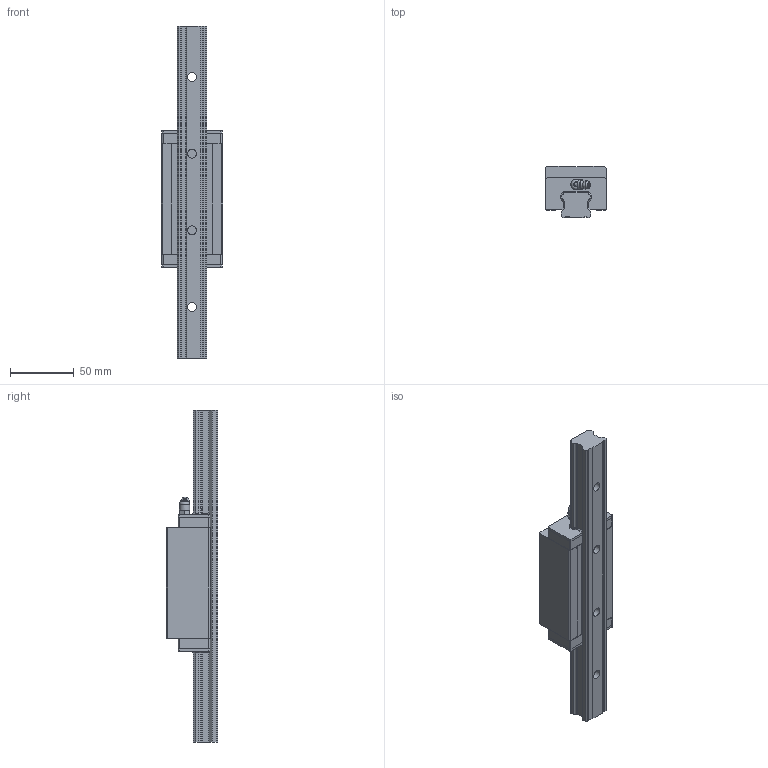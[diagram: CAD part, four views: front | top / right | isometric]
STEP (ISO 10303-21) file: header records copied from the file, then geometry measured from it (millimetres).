
FILE_DESCRIPTION((''),'2;1');
FILE_NAME('C:\Documents and Settings\土屋\My Documents\土屋移動用フォルダ\製品 (図面)\カタログ用3D\リニアガイド\EGH-L\EGH25L.stp','2015-12-15T17:45:33',('y'),(''),'Autodesk Inventor 11','Autodesk Inventor 11','');
FILE_SCHEMA(('AUTOMOTIVE_DESIGN { 1 0 10303 214 1 1 1 1 }'));
Length unit declared in the file: millimetre
Products named in the file (3): EGH25L; EGH25Lレール; EGH25Lキャリッジ
Assembly tree (2 placements, depth 2):
  EGH25L
    EGH25Lレール
    EGH25Lキャリッジ
Bounding box: 48 x 40 x 260 mm (x, y, z)
Volume: 227551.7 mm3; surface area: 57168.8 mm2
Topology: 7 solids, 7 shells, 308 faces, 815 edges, 532 vertices
Faces by surface type: plane 202, cylinder 90, cone 12, bspline 2, torus 1, sphere 1
Full cylindrical faces by diameter (mm): 5 x4, 6 x9, 7 x4, 7.75 x1, 8 x1, 11 x4
Entity records: 9475 total; most frequent: CARTESIAN_POINT 1779, DIRECTION 1582, ORIENTED_EDGE 1540, EDGE_CURVE 770, VECTOR 562, LINE 562, VERTEX_POINT 523, AXIS2_PLACEMENT_3D 510
